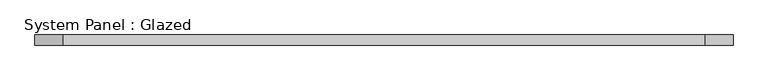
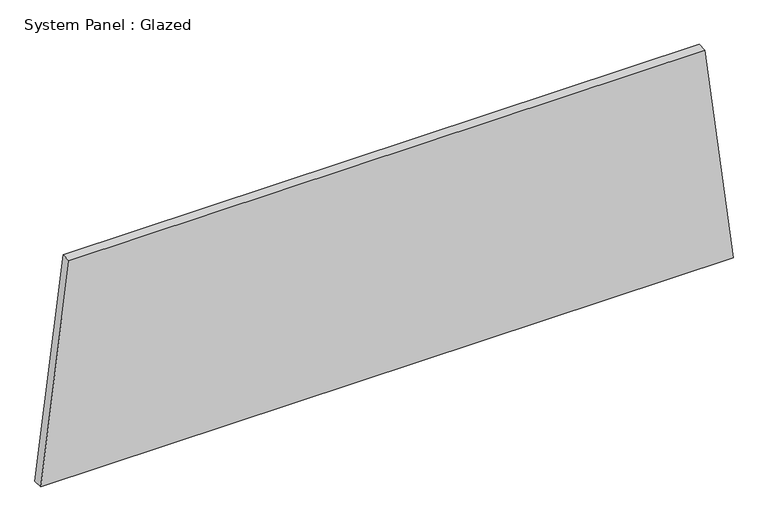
"""IFC4 building model written with IfcOpenShell, lengths in millimetres: plate geometry, System Panel : Glazed."""

import ifcopenshell
import ifcopenshell.guid

model = None  # the IFC model being written
_history = None  # IfcOwnerHistory: only IFC2X3 demands one
_inside = {}  # id of a spatial element -> (the spatial element, [elements in it])
_under = {}  # id of a project, library or spatial element -> (it, [spatial elements below it])
_declared = {}  # id of a project -> (the project, [libraries it declares])
_typed = {}  # id of a type object -> (the type object, [elements of that type])
_made_of = {}  # id of a material, layer set ... -> (it, [elements and type objects made of it])


def new_model(schema):
    """Start an empty IFC model of exactly this schema.

    Asked for "IFC4X3", IfcOpenShell would pick the latest addendum, in which some entities
    have other attributes; the version numbers below select the first issue.
    IFC2X3 requires an IfcOwnerHistory on every rooted entity: one is made here for all.
    """
    global model, _history
    if schema == "IFC4X3":
        model = ifcopenshell.file(schema_version=(4, 3, 0, 0))
    else:
        model = ifcopenshell.file(schema=schema)
    _inside.clear()
    _under.clear()
    _declared.clear()
    _typed.clear()
    _made_of.clear()
    _history = None
    if model.schema == "IFC2X3":
        org = make("IfcOrganization", Name="unknown")
        user = make(
            "IfcPersonAndOrganization",
            ThePerson=make("IfcPerson", FamilyName="unknown"),
            TheOrganization=org,
        )
        app = make(
            "IfcApplication",
            ApplicationDeveloper=org,
            Version="unknown",
            ApplicationFullName="unknown",
            ApplicationIdentifier="unknown",
        )
        _history = make(
            "IfcOwnerHistory",
            OwningUser=user,
            OwningApplication=app,
            ChangeAction="ADDED",
            CreationDate=0,
        )
    return model


def make(cls, **values):
    """One entity of the class cls with the attributes given. An attribute that is None is left unset."""
    return model.create_entity(
        cls, **{name: value for name, value in values.items() if value is not None}
    )


def rooted(cls, **values):
    """An entity with a GlobalId (a new one), such as an element, a storey or a relation."""
    return make(cls, GlobalId=ifcopenshell.guid.new(), OwnerHistory=_history, **values)


def si_unit(unit_type, name, prefix=None):
    """IfcSIUnit, for example si_unit("LENGTHUNIT", "METRE", prefix="MILLI")."""
    return make("IfcSIUnit", UnitType=unit_type, Prefix=prefix, Name=name)


def assignment(units):
    """IfcUnitAssignment: the units of a project."""
    return None if units is None else make("IfcUnitAssignment", Units=units)


def point(xyz):
    """IfcCartesianPoint."""
    return None if xyz is None else make("IfcCartesianPoint", Coordinates=xyz)


def direction(xyz):
    """IfcDirection."""
    return None if xyz is None else make("IfcDirection", DirectionRatios=xyz)


def frame(location, z_axis=None, x_axis=None):
    """IfcAxis2Placement3D, a coordinate frame: its origin and axes. An axis left out is left unset."""
    return make(
        "IfcAxis2Placement3D",
        Location=point(location),
        Axis=direction(z_axis),
        RefDirection=direction(x_axis),
    )


def origin():
    """The frame at (0, 0, 0) with its axes left unset."""
    return frame((0.0, 0.0, 0.0))


def place(relative_to, where):
    """IfcLocalPlacement: puts the frame where relative to a parent placement (None: the world)."""
    return make(
        "IfcLocalPlacement", PlacementRelTo=relative_to, RelativePlacement=where
    )


def context(
    kind, dimensions, precision=None, world=None, true_north=None, identifier=None
):
    """IfcGeometricRepresentationContext, for example the 3D "Model" context."""
    return make(
        "IfcGeometricRepresentationContext",
        ContextIdentifier=identifier,
        ContextType=kind,
        CoordinateSpaceDimension=dimensions,
        Precision=precision,
        WorldCoordinateSystem=world,
        TrueNorth=true_north,
    )


def project(units=None, contexts=None):
    """IfcProject with its units and contexts."""
    return rooted(
        "IfcProject",
        Name="project",
        RepresentationContexts=contexts,
        UnitsInContext=assignment(units),
    )


def spatial(cls, under=None, at=None, **own):
    """A site, building, storey or space (cls), placed at a placement, below another one or the project."""
    s = rooted(cls, ObjectPlacement=at, **own)
    if under is not None:
        _under.setdefault(under.id(), (under, []))[1].append(s)
    return s


def polyline(points):
    """IfcPolyline through the points."""
    return make("IfcPolyline", Points=[point(p) for p in points])


def outline(outer, holes=None, kind="AREA"):
    """IfcArbitraryClosedProfileDef: a profile drawn as a closed curve; with holes, ...WithVoids."""
    if holes is None:
        return make("IfcArbitraryClosedProfileDef", ProfileType=kind, OuterCurve=outer)
    return make(
        "IfcArbitraryProfileDefWithVoids",
        ProfileType=kind,
        OuterCurve=outer,
        InnerCurves=holes,
    )


def extrude(swept, where, along, depth):
    """IfcExtrudedAreaSolid: the profile swept, set in the frame where, extruded along a direction by depth."""
    return make(
        "IfcExtrudedAreaSolid",
        SweptArea=swept,
        Position=where,
        ExtrudedDirection=direction(along),
        Depth=depth,
    )


def shape(context_of_items, identifier, shape_type, items):
    """IfcShapeRepresentation: the items that make up one representation, for example the "Body"."""
    return make(
        "IfcShapeRepresentation",
        ContextOfItems=context_of_items,
        RepresentationIdentifier=identifier,
        RepresentationType=shape_type,
        Items=items,
    )


def source(mapping_origin, context_of_items, identifier, shape_type, items):
    """IfcRepresentationMap: a shape defined once, which mapped items show again and again."""
    return make(
        "IfcRepresentationMap",
        MappingOrigin=mapping_origin,
        MappedRepresentation=shape(context_of_items, identifier, shape_type, items),
    )


def transform(
    local_origin,
    x_axis=None,
    y_axis=None,
    z_axis=None,
    scale=None,
    scale2=None,
    scale3=None,
    uniform=True,
):
    """IfcCartesianTransformationOperator3D, or its non-uniform kind. x_axis, y_axis, z_axis: its Axis1, 2, 3."""
    if uniform:
        return make(
            "IfcCartesianTransformationOperator3D",
            Axis1=direction(x_axis),
            Axis2=direction(y_axis),
            LocalOrigin=point(local_origin),
            Scale=scale,
            Axis3=direction(z_axis),
        )
    return make(
        "IfcCartesianTransformationOperator3DnonUniform",
        Axis1=direction(x_axis),
        Axis2=direction(y_axis),
        LocalOrigin=point(local_origin),
        Scale=scale,
        Axis3=direction(z_axis),
        Scale2=scale2,
        Scale3=scale3,
    )


def mapped(mapping_source, mapping_target):
    """IfcMappedItem: shows the shape of a source again, moved by a transform."""
    return make(
        "IfcMappedItem", MappingSource=mapping_source, MappingTarget=mapping_target
    )


def made_of(thing, what):
    """Note that an element or type object is made of a material, layer set ...; save() writes the relation."""
    if what is not None:
        _made_of.setdefault(what.id(), (what, []))[1].append(thing)
    return thing


def element(
    cls,
    number,
    at=None,
    inside=None,
    cuts=None,
    type_object=None,
    material=None,
    context=None,
    identifier="Body",
    shape_type=None,
    held_by="IfcProductDefinitionShape",
    body=None,
    shapes=None,
    **own,
):
    """One element of the class cls, such as IfcWall. Its Tag is "e" and its number.

    at: its placement. inside: the storey or other place that contains it. cuts: it is an
    opening in that element (IfcRelVoidsElement). A single representation is given by context,
    identifier, shape_type and body (its items); several are given by shapes. held_by: the class
    of the entity that holds the representations. save() writes the other relations.
    """
    e = rooted(cls, Tag="e%d" % number, ObjectPlacement=at, **own)
    if body is not None:
        shapes = [shape(context, identifier, shape_type, body)]
    if shapes is not None:
        e.Representation = make(held_by, Representations=shapes)
    if inside is not None:
        _inside.setdefault(inside.id(), (inside, []))[1].append(e)
    if cuts is not None:
        rooted(
            "IfcRelVoidsElement", RelatingBuildingElement=cuts, RelatedOpeningElement=e
        )
    if type_object is not None:
        _typed.setdefault(type_object.id(), (type_object, []))[1].append(e)
    return made_of(e, material)


def aggregate(whole, parts):
    """IfcRelAggregates: a whole, such as a stair, and the parts it consists of."""
    return rooted("IfcRelAggregates", RelatingObject=whole, RelatedObjects=parts)


def save(model, path):
    """Write the relations noted so far, then the file.

    IfcRelAggregates (storeys below a building ...), IfcRelContainedInSpatialStructure (elements
    in a storey), IfcRelDefinesByType, IfcRelAssociatesMaterial and IfcRelDeclares: one each for
    every whole, place, type object, material and project.
    """
    for whole, parts in _under.values():
        aggregate(whole, parts)
    for where, things in _inside.values():
        rooted(
            "IfcRelContainedInSpatialStructure",
            RelatedElements=things,
            RelatingStructure=where,
        )
    for kind, things in _typed.values():
        rooted("IfcRelDefinesByType", RelatedObjects=things, RelatingType=kind)
    for what, things in _made_of.values():
        rooted("IfcRelAssociatesMaterial", RelatedObjects=things, RelatingMaterial=what)
    for by, libraries in _declared.values():
        rooted("IfcRelDeclares", RelatingContext=by, RelatedDefinitions=libraries)
    model.write(path)


def system_panel_glazed_7d733e69(model_context):
    return source(origin(), model_context, "Body", "SweptSolid", [
        extrude(outline(polyline([(0.0, -874.5716551), (0.0, 874.5716551), (579.6314374, 803.2065285), (579.6314374, -803.2065285), (0.0, -874.5716551)])), frame((0.0, -44.45, 0.0), z_axis=(0.0, 1.0, 0.0), x_axis=(0.0, 0.0, 1.0)), (0.0, 0.0, 1.0), 25.4),
    ])


if __name__ == "__main__":
    model = new_model("IFC4")
    model_context = context("Model", 3, world=origin())
    ifc_project = project(units=[si_unit("LENGTHUNIT", "METRE", prefix="MILLI")], contexts=[model_context])
    site = spatial("IfcSite", under=ifc_project)
    building = spatial("IfcBuilding", under=site)
    placement = place(None, origin())
    system_panel_glazed_shape = system_panel_glazed_7d733e69(model_context)
    element("IfcPlate", 1, ObjectType="System Panel : Glazed", at=placement, inside=building, context=model_context, shape_type="MappedRepresentation", body=[
        mapped(system_panel_glazed_shape, transform((0.0, 0.0, 0.0), x_axis=(1.0, 0.0, 0.0), y_axis=(0.0, 1.0, 0.0), z_axis=(0.0, 0.0, 1.0))),
    ])
    save(model, "model.ifc")
